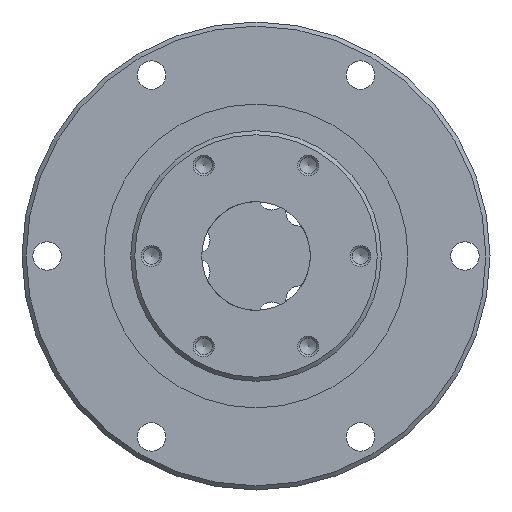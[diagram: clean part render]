
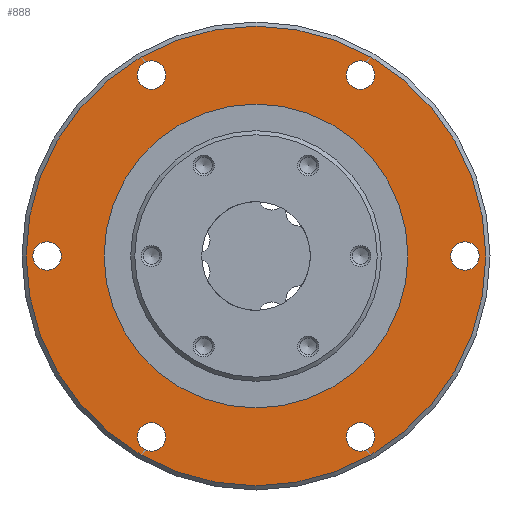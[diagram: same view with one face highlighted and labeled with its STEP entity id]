
A CAD part, left-side view. The second image highlights one B-rep face of the part: STEP entity #888.
In plain terms, the highlighted planar face has unit normal (-1, 0, 0).
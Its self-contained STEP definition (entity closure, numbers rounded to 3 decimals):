
#66=PLANE('',#1021);
#188=ORIENTED_EDGE('',*,*,#340,.F.);
#189=ORIENTED_EDGE('',*,*,#341,.F.);
#190=ORIENTED_EDGE('',*,*,#342,.F.);
#191=ORIENTED_EDGE('',*,*,#343,.F.);
#192=ORIENTED_EDGE('',*,*,#344,.F.);
#193=ORIENTED_EDGE('',*,*,#345,.F.);
#194=ORIENTED_EDGE('',*,*,#346,.F.);
#195=ORIENTED_EDGE('',*,*,#339,.T.);
#339=EDGE_CURVE('',#423,#423,#512,.T.);
#340=EDGE_CURVE('',#424,#424,#513,.T.);
#341=EDGE_CURVE('',#425,#425,#514,.F.);
#342=EDGE_CURVE('',#426,#426,#515,.F.);
#343=EDGE_CURVE('',#427,#427,#516,.F.);
#344=EDGE_CURVE('',#428,#428,#517,.F.);
#345=EDGE_CURVE('',#429,#429,#518,.F.);
#346=EDGE_CURVE('',#430,#430,#519,.F.);
#423=VERTEX_POINT('',#1559);
#424=VERTEX_POINT('',#1562);
#425=VERTEX_POINT('',#1564);
#426=VERTEX_POINT('',#1566);
#427=VERTEX_POINT('',#1568);
#428=VERTEX_POINT('',#1570);
#429=VERTEX_POINT('',#1572);
#430=VERTEX_POINT('',#1574);
#512=CIRCLE('',#1020,18.182);
#513=CIRCLE('',#1022,27.5);
#514=CIRCLE('',#1023,1.7);
#515=CIRCLE('',#1024,1.7);
#516=CIRCLE('',#1025,1.7);
#517=CIRCLE('',#1026,1.7);
#518=CIRCLE('',#1027,1.7);
#519=CIRCLE('',#1028,1.7);
#591=EDGE_LOOP('',(#188));
#592=EDGE_LOOP('',(#189));
#593=EDGE_LOOP('',(#190));
#594=EDGE_LOOP('',(#191));
#595=EDGE_LOOP('',(#192));
#596=EDGE_LOOP('',(#193));
#597=EDGE_LOOP('',(#194));
#598=EDGE_LOOP('',(#195));
#725=FACE_BOUND('',#591,.T.);
#726=FACE_BOUND('',#592,.T.);
#727=FACE_BOUND('',#593,.T.);
#728=FACE_BOUND('',#594,.T.);
#729=FACE_BOUND('',#595,.T.);
#730=FACE_BOUND('',#596,.T.);
#731=FACE_BOUND('',#597,.T.);
#732=FACE_BOUND('',#598,.T.);
#888=ADVANCED_FACE('',(#725,#726,#727,#728,#729,#730,#731,#732),#66,.F.);
#1020=AXIS2_PLACEMENT_3D('',#1558,#1246,#1247);
#1021=AXIS2_PLACEMENT_3D('',#1560,#1248,#1249);
#1022=AXIS2_PLACEMENT_3D('',#1561,#1250,#1251);
#1023=AXIS2_PLACEMENT_3D('',#1563,#1252,#1253);
#1024=AXIS2_PLACEMENT_3D('',#1565,#1254,#1255);
#1025=AXIS2_PLACEMENT_3D('',#1567,#1256,#1257);
#1026=AXIS2_PLACEMENT_3D('',#1569,#1258,#1259);
#1027=AXIS2_PLACEMENT_3D('',#1571,#1260,#1261);
#1028=AXIS2_PLACEMENT_3D('',#1573,#1262,#1263);
#1246=DIRECTION('',(1.,0.,0.));
#1247=DIRECTION('',(0.,0.,-1.));
#1248=DIRECTION('',(1.,0.,0.));
#1249=DIRECTION('',(0.,0.,-1.));
#1250=DIRECTION('',(1.,0.,0.));
#1251=DIRECTION('',(0.,0.,-1.));
#1252=DIRECTION('',(1.,0.,0.));
#1253=DIRECTION('',(0.,0.,-1.));
#1254=DIRECTION('',(1.,0.,0.));
#1255=DIRECTION('',(0.,0.,-1.));
#1256=DIRECTION('',(1.,0.,0.));
#1257=DIRECTION('',(0.,0.,-1.));
#1258=DIRECTION('',(1.,0.,0.));
#1259=DIRECTION('',(0.,0.,-1.));
#1260=DIRECTION('',(1.,0.,0.));
#1261=DIRECTION('',(0.,0.,-1.));
#1262=DIRECTION('',(1.,0.,0.));
#1263=DIRECTION('',(0.,0.,-1.));
#1558=CARTESIAN_POINT('',(9.,0.,0.));
#1559=CARTESIAN_POINT('',(9.,0.,-18.182));
#1560=CARTESIAN_POINT('',(9.,18.182,0.));
#1561=CARTESIAN_POINT('',(9.,0.,0.));
#1562=CARTESIAN_POINT('',(9.,0.,-27.5));
#1563=CARTESIAN_POINT('',(9.,25.,0.));
#1564=CARTESIAN_POINT('',(9.,25.,-1.7));
#1565=CARTESIAN_POINT('',(9.,12.5,-21.651));
#1566=CARTESIAN_POINT('',(9.,12.5,-23.351));
#1567=CARTESIAN_POINT('',(9.,-12.5,-21.651));
#1568=CARTESIAN_POINT('',(9.,-12.5,-23.351));
#1569=CARTESIAN_POINT('',(9.,-25.,0.));
#1570=CARTESIAN_POINT('',(9.,-25.,-1.7));
#1571=CARTESIAN_POINT('',(9.,-12.5,21.651));
#1572=CARTESIAN_POINT('',(9.,-12.5,19.951));
#1573=CARTESIAN_POINT('',(9.,12.5,21.651));
#1574=CARTESIAN_POINT('',(9.,12.5,19.951));
